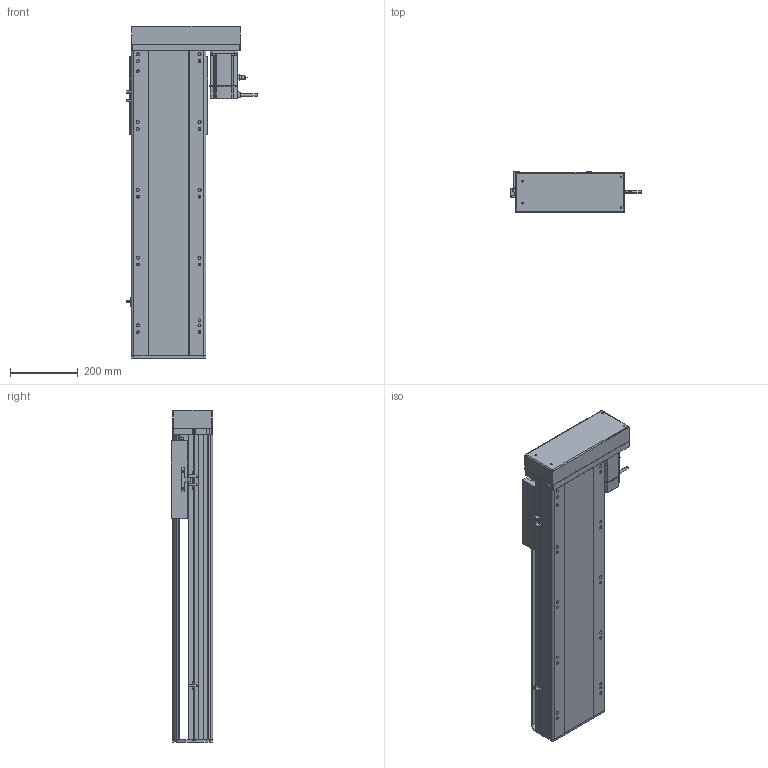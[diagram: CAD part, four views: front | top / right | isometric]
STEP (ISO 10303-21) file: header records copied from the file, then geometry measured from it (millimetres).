
FILE_DESCRIPTION (( 'STEP AP214' ), '1' );
FILE_NAME ('RTH22-XX-600-L-M75-C4.STEP', '2025-10-24T10:57:51', ( 'Microsoft' ), ( 'Microsoft' ), 'SwSTEP 2.0', 'SolidWorks 2018', '' );
FILE_SCHEMA (( 'AUTOMOTIVE_DESIGN' ));
Length unit declared in the file: millimetre
Products named in the file (10): N_RTH22-L-008-P75萇儂啣^RTH22-XX-XX-L-M75-C4; N_RTH22-L-007奻裔^RTH22-XX-XX-L-M75-C4; N_RTH22-L-004-SFS25賑釱^RTH22-XX-XX-L-M75-C4; N_RTH22-L-018裔赽^RTH22-XX-XX-L-M75-C4; N_750W萇儂^RTH22-XX-XX-L-M75-C4; N_RTH22-GY-001耜裔^RTH22-XX-XX-L-M75-C4; N_OMRON EE-SX672 传感器^RTH22-XX-XX-L-M75-C4; N_RTH22-L-011菁釱^RTH22-XX-XX-L-M75-C4; RTH22-XX-600-L-M75-C4; N_RTH22-GY-013外置感应片^RTH22-XX-XX-L-M75-C4
Assembly tree (11 placements, depth 2):
  RTH22-XX-600-L-M75-C4
    N_RTH22-L-011菁釱^RTH22-XX-XX-L-M75-C4
    N_RTH22-GY-001耜裔^RTH22-XX-XX-L-M75-C4
    N_750W萇儂^RTH22-XX-XX-L-M75-C4
    N_RTH22-L-008-P75萇儂啣^RTH22-XX-XX-L-M75-C4
    N_RTH22-L-007奻裔^RTH22-XX-XX-L-M75-C4
    N_RTH22-L-018裔赽^RTH22-XX-XX-L-M75-C4
    N_OMRON EE-SX672 传感器^RTH22-XX-XX-L-M75-C4  x3
    N_RTH22-GY-013外置感应片^RTH22-XX-XX-L-M75-C4
    N_RTH22-L-004-SFS25賑釱^RTH22-XX-XX-L-M75-C4
Bounding box: 384.7 x 122 x 979.7 mm (x, y, z)
Volume: 14230731.7 mm3; surface area: 1650568.2 mm2
Topology: 11 solids, 11 shells, 1570 faces, 4279 edges, 2761 vertices
Faces by surface type: plane 791, cylinder 446, bspline 279, cone 54
Entity records: 39019 total; most frequent: CARTESIAN_POINT 11966, ORIENTED_EDGE 5542, DIRECTION 5201, EDGE_CURVE 2771, VERTEX_POINT 1797, AXIS2_PLACEMENT_3D 1736, VECTOR 1729, LINE 1729
